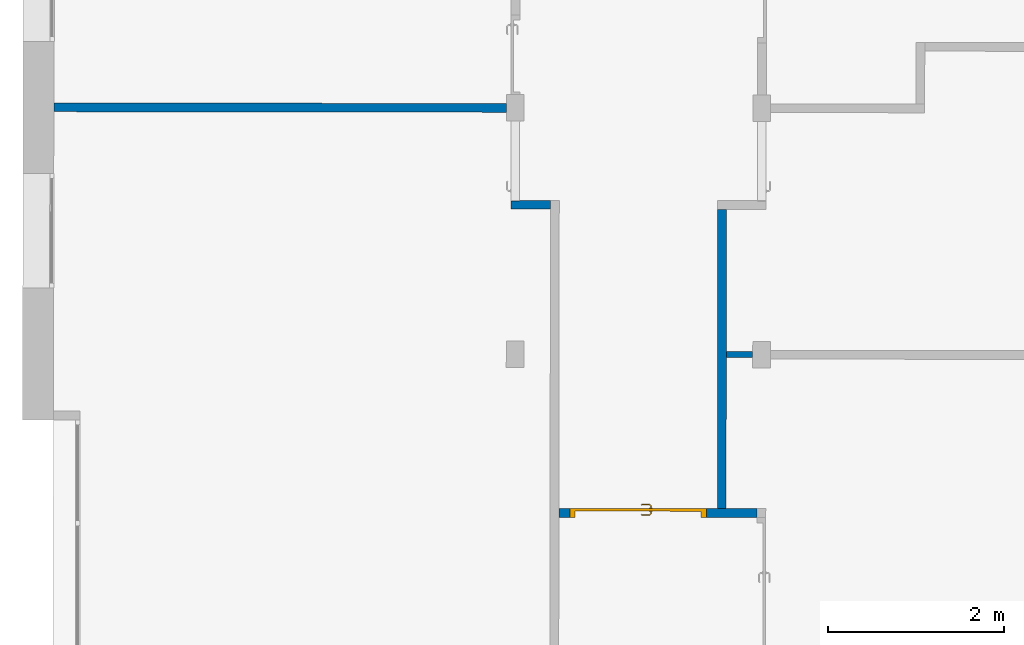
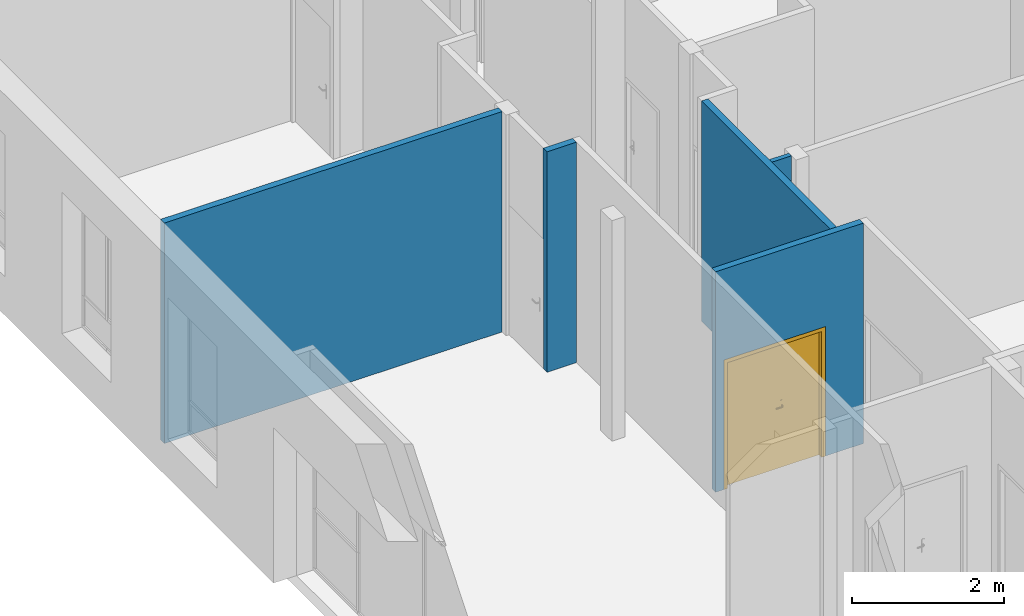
# One storey, part 61 of 101: 5 walls, 1 door, 2 openings.
"""IFC2X3 building model written with IfcOpenShell, lengths in metres."""

import ifcopenshell
import ifcopenshell.guid

model = None  # the IFC model being written
_history = None  # IfcOwnerHistory: only IFC2X3 demands one
_inside = {}  # id of a spatial element -> (the spatial element, [elements in it])
_under = {}  # id of a project, library or spatial element -> (it, [spatial elements below it])
_declared = {}  # id of a project -> (the project, [libraries it declares])
_typed = {}  # id of a type object -> (the type object, [elements of that type])
_made_of = {}  # id of a material, layer set ... -> (it, [elements and type objects made of it])


def new_model(schema):
    """Start an empty IFC model of exactly this schema.

    Asked for "IFC4X3", IfcOpenShell would pick the latest addendum, in which some entities
    have other attributes; the version numbers below select the first issue.
    IFC2X3 requires an IfcOwnerHistory on every rooted entity: one is made here for all.
    """
    global model, _history
    if schema == "IFC4X3":
        model = ifcopenshell.file(schema_version=(4, 3, 0, 0))
    else:
        model = ifcopenshell.file(schema=schema)
    _inside.clear()
    _under.clear()
    _declared.clear()
    _typed.clear()
    _made_of.clear()
    _history = None
    if model.schema == "IFC2X3":
        org = make("IfcOrganization", Name="unknown")
        user = make(
            "IfcPersonAndOrganization",
            ThePerson=make("IfcPerson", FamilyName="unknown"),
            TheOrganization=org,
        )
        app = make(
            "IfcApplication",
            ApplicationDeveloper=org,
            Version="unknown",
            ApplicationFullName="unknown",
            ApplicationIdentifier="unknown",
        )
        _history = make(
            "IfcOwnerHistory",
            OwningUser=user,
            OwningApplication=app,
            ChangeAction="ADDED",
            CreationDate=0,
        )
    return model


def make(cls, **values):
    """One entity of the class cls with the attributes given. An attribute that is None is left unset."""
    return model.create_entity(
        cls, **{name: value for name, value in values.items() if value is not None}
    )


def entity(cls, *values):
    """Any entity or typed value of the class cls, its attributes in the order of the schema. None: left unset."""
    e = model.create_entity(cls)
    for i, value in enumerate(values):
        if value is not None:
            e[i] = value
    return e


def rooted(cls, **values):
    """An entity with a GlobalId (a new one), such as an element, a storey or a relation."""
    return make(cls, GlobalId=ifcopenshell.guid.new(), OwnerHistory=_history, **values)


def si_unit(unit_type, name, prefix=None):
    """IfcSIUnit, for example si_unit("LENGTHUNIT", "METRE", prefix="MILLI")."""
    return make("IfcSIUnit", UnitType=unit_type, Prefix=prefix, Name=name)


def converted_unit(unit_type, name, factor, base, dimensions=None, offset=None):
    """IfcConversionBasedUnit, such as the inch: factor (a typed value) times the base unit."""
    return make(
        "IfcConversionBasedUnit"
        if offset is None
        else "IfcConversionBasedUnitWithOffset",
        ConversionOffset=offset,
        Dimensions=None
        if dimensions is None
        else entity("IfcDimensionalExponents", *dimensions),
        UnitType=unit_type,
        Name=name,
        ConversionFactor=make(
            "IfcMeasureWithUnit", ValueComponent=factor, UnitComponent=base
        ),
    )


def derived_unit(unit_type, elements):
    """IfcDerivedUnit: a product of units, each with its exponent."""
    return make(
        "IfcDerivedUnit",
        Elements=[
            make("IfcDerivedUnitElement", Unit=unit, Exponent=power)
            for unit, power in elements
        ],
        UnitType=unit_type,
    )


def assignment(units):
    """IfcUnitAssignment: the units of a project."""
    return None if units is None else make("IfcUnitAssignment", Units=units)


def point(xyz):
    """IfcCartesianPoint."""
    return None if xyz is None else make("IfcCartesianPoint", Coordinates=xyz)


def direction(xyz):
    """IfcDirection."""
    return None if xyz is None else make("IfcDirection", DirectionRatios=xyz)


def frame(location, z_axis=None, x_axis=None):
    """IfcAxis2Placement3D, a coordinate frame: its origin and axes. An axis left out is left unset."""
    return make(
        "IfcAxis2Placement3D",
        Location=point(location),
        Axis=direction(z_axis),
        RefDirection=direction(x_axis),
    )


def frame_2d(location, x_axis=None):
    """IfcAxis2Placement2D, a coordinate frame in the plane: its origin and x axis."""
    return make(
        "IfcAxis2Placement2D", Location=point(location), RefDirection=direction(x_axis)
    )


def origin():
    """The frame at (0, 0, 0) with its axes left unset."""
    return frame((0.0, 0.0, 0.0))


def place(relative_to, where):
    """IfcLocalPlacement: puts the frame where relative to a parent placement (None: the world)."""
    return make(
        "IfcLocalPlacement", PlacementRelTo=relative_to, RelativePlacement=where
    )


def context(
    kind, dimensions, precision=None, world=None, true_north=None, identifier=None
):
    """IfcGeometricRepresentationContext, for example the 3D "Model" context."""
    return make(
        "IfcGeometricRepresentationContext",
        ContextIdentifier=identifier,
        ContextType=kind,
        CoordinateSpaceDimension=dimensions,
        Precision=precision,
        WorldCoordinateSystem=world,
        TrueNorth=true_north,
    )


def subcontext(parent, identifier, kind, view, scale=None):
    """IfcGeometricRepresentationSubContext, for example "Body" below "Model"."""
    return make(
        "IfcGeometricRepresentationSubContext",
        ContextIdentifier=identifier,
        ContextType=kind,
        ParentContext=parent,
        TargetScale=scale,
        TargetView=view,
    )


def project(units=None, contexts=None):
    """IfcProject with its units and contexts."""
    return rooted(
        "IfcProject",
        Name="project",
        RepresentationContexts=contexts,
        UnitsInContext=assignment(units),
    )


def spatial(cls, under=None, at=None, **own):
    """A site, building, storey or space (cls), placed at a placement, below another one or the project."""
    s = rooted(cls, ObjectPlacement=at, **own)
    if under is not None:
        _under.setdefault(under.id(), (under, []))[1].append(s)
    return s


def profile(cls, at=None, kind="AREA", **sizes):
    """A parametric profile (cls). Its sizes go by their IFC names, for example OverallWidth=200.0."""
    return make(cls, ProfileType=kind, Position=at, **sizes)


def rectangle(**sizes):
    """IfcRectangleProfileDef."""
    return profile("IfcRectangleProfileDef", **sizes)


def extrude(swept, where, along, depth):
    """IfcExtrudedAreaSolid: the profile swept, set in the frame where, extruded along a direction by depth."""
    return make(
        "IfcExtrudedAreaSolid",
        SweptArea=swept,
        Position=where,
        ExtrudedDirection=direction(along),
        Depth=depth,
    )


def faces_of(points, faces, orient=None, outer=None):
    """IfcFace entities. A face is a list of loops; a loop is a list of indices into points, from 0.

    orient and outer hold one flag for each loop. By default every Orientation is true, the
    first loop of a face is its IfcFaceOuterBound and the others are IfcFaceBound.
    """
    made = []
    for i, loops in enumerate(faces):
        bounds = []
        for j, loop in enumerate(loops):
            is_outer = j == 0 if outer is None else outer[i][j]
            bounds.append(
                make(
                    "IfcFaceOuterBound" if is_outer else "IfcFaceBound",
                    Bound=make("IfcPolyLoop", Polygon=[points[k] for k in loop]),
                    Orientation=True if orient is None else orient[i][j],
                )
            )
        made.append(make("IfcFace", Bounds=bounds))
    return made


def faceted_brep(points, faces, orient=None, outer=None, voids=None):
    """IfcFacetedBrep: a solid bounded by flat faces; with voids (closed shells), ...WithVoids."""
    shared = [point(p) for p in points]
    hull = make("IfcClosedShell", CfsFaces=faces_of(shared, faces, orient, outer))
    if voids is None:
        return make("IfcFacetedBrep", Outer=hull)
    return make(
        "IfcFacetedBrepWithVoids",
        Outer=hull,
        Voids=[
            make(cls, CfsFaces=faces_of(shared, fs, o, b)) for cls, fs, o, b in voids
        ],
    )


def shape(context_of_items, identifier, shape_type, items):
    """IfcShapeRepresentation: the items that make up one representation, for example the "Body"."""
    return make(
        "IfcShapeRepresentation",
        ContextOfItems=context_of_items,
        RepresentationIdentifier=identifier,
        RepresentationType=shape_type,
        Items=items,
    )


def source(mapping_origin, context_of_items, identifier, shape_type, items):
    """IfcRepresentationMap: a shape defined once, which mapped items show again and again."""
    return make(
        "IfcRepresentationMap",
        MappingOrigin=mapping_origin,
        MappedRepresentation=shape(context_of_items, identifier, shape_type, items),
    )


def transform(
    local_origin,
    x_axis=None,
    y_axis=None,
    z_axis=None,
    scale=None,
    scale2=None,
    scale3=None,
    uniform=True,
):
    """IfcCartesianTransformationOperator3D, or its non-uniform kind. x_axis, y_axis, z_axis: its Axis1, 2, 3."""
    if uniform:
        return make(
            "IfcCartesianTransformationOperator3D",
            Axis1=direction(x_axis),
            Axis2=direction(y_axis),
            LocalOrigin=point(local_origin),
            Scale=scale,
            Axis3=direction(z_axis),
        )
    return make(
        "IfcCartesianTransformationOperator3DnonUniform",
        Axis1=direction(x_axis),
        Axis2=direction(y_axis),
        LocalOrigin=point(local_origin),
        Scale=scale,
        Axis3=direction(z_axis),
        Scale2=scale2,
        Scale3=scale3,
    )


def mapped(mapping_source, mapping_target):
    """IfcMappedItem: shows the shape of a source again, moved by a transform."""
    return make(
        "IfcMappedItem", MappingSource=mapping_source, MappingTarget=mapping_target
    )


def material(Name=None, Category=None):
    """IfcMaterial."""
    return make("IfcMaterial", Name=Name, Category=Category)


def material_list(materials):
    """IfcMaterialList."""
    return make("IfcMaterialList", Materials=materials)


def layer(
    of_material, thickness, ventilated=None, Name=None, Category=None, Priority=None
):
    """IfcMaterialLayer: one layer of a wall or slab, of a material (None: an air gap)."""
    return make(
        "IfcMaterialLayer",
        Material=of_material,
        LayerThickness=thickness,
        IsVentilated=ventilated,
        Name=Name,
        Category=Category,
        Priority=Priority,
    )


def layer_set(layers, Name=None):
    """IfcMaterialLayerSet."""
    return make("IfcMaterialLayerSet", MaterialLayers=layers, LayerSetName=Name)


def layer_usage(for_layer_set, set_direction, sense, offset, extent=None):
    """IfcMaterialLayerSetUsage: how a layer set lies in its element."""
    return make(
        "IfcMaterialLayerSetUsage",
        ForLayerSet=for_layer_set,
        LayerSetDirection=set_direction,
        DirectionSense=sense,
        OffsetFromReferenceLine=offset,
        ReferenceExtent=extent,
    )


def made_of(thing, what):
    """Note that an element or type object is made of a material, layer set ...; save() writes the relation."""
    if what is not None:
        _made_of.setdefault(what.id(), (what, []))[1].append(thing)
    return thing


def type_object(cls, material=None, **own):
    """A type object (cls), such as IfcWallType, which elements share."""
    return made_of(rooted(cls, **own), material)


def type_shapes(of_type, sources):
    """Give a type object the sources (RepresentationMaps) that its elements show as mapped items."""
    of_type.RepresentationMaps = sources


def element(
    cls,
    number,
    at=None,
    inside=None,
    cuts=None,
    type_object=None,
    material=None,
    context=None,
    identifier="Body",
    shape_type=None,
    held_by="IfcProductDefinitionShape",
    body=None,
    shapes=None,
    **own,
):
    """One element of the class cls, such as IfcWall. Its Tag is "e" and its number.

    at: its placement. inside: the storey or other place that contains it. cuts: it is an
    opening in that element (IfcRelVoidsElement). A single representation is given by context,
    identifier, shape_type and body (its items); several are given by shapes. held_by: the class
    of the entity that holds the representations. save() writes the other relations.
    """
    e = rooted(cls, Tag="e%d" % number, ObjectPlacement=at, **own)
    if body is not None:
        shapes = [shape(context, identifier, shape_type, body)]
    if shapes is not None:
        e.Representation = make(held_by, Representations=shapes)
    if inside is not None:
        _inside.setdefault(inside.id(), (inside, []))[1].append(e)
    if cuts is not None:
        rooted(
            "IfcRelVoidsElement", RelatingBuildingElement=cuts, RelatedOpeningElement=e
        )
    if type_object is not None:
        _typed.setdefault(type_object.id(), (type_object, []))[1].append(e)
    return made_of(e, material)


def fill(opening, filler):
    """IfcRelFillsElement: the door or window that sits in an opening."""
    return rooted(
        "IfcRelFillsElement",
        RelatingOpeningElement=opening,
        RelatedBuildingElement=filler,
    )


def aggregate(whole, parts):
    """IfcRelAggregates: a whole, such as a stair, and the parts it consists of."""
    return rooted("IfcRelAggregates", RelatingObject=whole, RelatedObjects=parts)


def save(model, path):
    """Write the relations noted so far, then the file.

    IfcRelAggregates (storeys below a building ...), IfcRelContainedInSpatialStructure (elements
    in a storey), IfcRelDefinesByType, IfcRelAssociatesMaterial and IfcRelDeclares: one each for
    every whole, place, type object, material and project.
    """
    for whole, parts in _under.values():
        aggregate(whole, parts)
    for where, things in _inside.values():
        rooted(
            "IfcRelContainedInSpatialStructure",
            RelatedElements=things,
            RelatingStructure=where,
        )
    for kind, things in _typed.values():
        rooted("IfcRelDefinesByType", RelatedObjects=things, RelatingType=kind)
    for what, things in _made_of.values():
        rooted("IfcRelAssociatesMaterial", RelatedObjects=things, RelatingMaterial=what)
    for by, libraries in _declared.values():
        rooted("IfcRelDeclares", RelatingContext=by, RelatedDefinitions=libraries)
    model.write(path)


model = new_model("IFC2X3")

# Units and contexts
model_context = context("Model", 3, precision=1e-05, world=origin(), true_north=direction((6.123233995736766e-17, 1.0)))
body_context = subcontext(model_context, "Body", "Model", "MODEL_VIEW")
ifc_project = project(units=[si_unit("LENGTHUNIT", "METRE"), si_unit("AREAUNIT", "SQUARE_METRE"), converted_unit("PLANEANGLEUNIT", "DEGREE", entity("IfcPlaneAngleMeasure", 0.017453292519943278), si_unit("PLANEANGLEUNIT", "RADIAN"), dimensions=[0, 0, 0, 0, 0, 0, 0]), derived_unit("THERMALTRANSMITTANCEUNIT", [(si_unit("MASSUNIT", "GRAM", prefix="KILO"), 1), (si_unit("THERMODYNAMICTEMPERATUREUNIT", "KELVIN"), -1), (si_unit("TIMEUNIT", "SECOND"), -3)])], contexts=[model_context])

# Site, building, storey
site_placement = place(None, frame((1253.6752467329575, 2072.143113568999, 91.49999999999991), z_axis=(0.0, 0.0, 1.0), x_axis=(0.7237211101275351, 0.6900925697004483, 0.0)))
site = spatial("IfcSite", under=ifc_project, at=site_placement, Name="Surface", CompositionType="ELEMENT")
building_placement = place(site_placement, origin())
building = spatial("IfcBuilding", under=site, at=building_placement, CompositionType="ELEMENT")
storey_placement = place(building_placement, origin())
storey = spatial("IfcBuildingStorey", under=building, at=storey_placement, Name="0- Rdc", CompositionType="ELEMENT", Elevation=-5.764692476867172e-13)

# Wall, opening, door
ifc_material_1 = material(Name="OMD_Béton blanc")
ifc_layer_1 = layer(ifc_material_1, 0.1)
ifc_layer_set_1 = layer_set([ifc_layer_1], Name="Mur de base:MUR 10")
ifc_layer_usage_1 = layer_usage(ifc_layer_set_1, "AXIS2", "NEGATIVE", 0.05)
wall_type_1 = type_object("IfcWallType", Name="Mur de base:MUR 10", PredefinedType="STANDARD", material=ifc_layer_set_1)
wall_1_placement = place(storey_placement, frame((162.69481149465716, 12.014438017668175, 0.0), z_axis=(0.0, 0.0, 1.0), x_axis=(-0.7228702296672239, 0.6909838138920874, 0.0)))
wall_1 = element("IfcWallStandardCase", 1, at=wall_1_placement, inside=storey, type_object=wall_type_1, material=ifc_layer_usage_1, Name="Mur de base:MUR 10", ObjectType="Mur de base:MUR 10", context=body_context, shape_type="SweptSolid", body=[
    extrude(rectangle(XDim=2.2499999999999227, YDim=0.1000000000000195, at=frame_2d((1.1249999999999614, 5.342948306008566e-16), x_axis=(-1.0, 0.0))), origin(), (0.0, 0.0, 1.0), 3.5499999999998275),
])
opening_1_placement = place(wall_1_placement, frame((2.12499999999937, 0.04999999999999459, 0.0)))
opening_1 = element("IfcOpeningElement", 2, at=opening_1_placement, cuts=wall_1, Name="OMD_Porte 2V tunnel:140x204:1", ObjectType="Opening", context=body_context, shape_type="SweptSolid", body=[
    extrude(rectangle(XDim=2.085, YDim=1.5499999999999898, at=frame_2d((1.0425, 0.7749999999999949), x_axis=(1.0, 0.0))), frame((0.0, 0.0, 0.0), z_axis=(0.0, -1.0, 0.0), x_axis=(0.0, 0.0, 1.0)), (0.0, 0.0, 1.0), 0.1),
])
ifc_material_2 = material(Name="<Unnamed>")
ifc_material_3 = material(Name="Porte - Poignée")
ifc_material_4 = material(Name="OMD_Bois")
ifc_material_list = material_list([ifc_material_2, ifc_material_3, ifc_material_4])
door_style = type_object("IfcDoorStyle", Name="OMD_Porte 2V tunnel:140x204", ConstructionType="NOTDEFINED", OperationType="NOTDEFINED", ParameterTakesPrecedence=False, Sizeable=False, material=ifc_material_list)
shared_shape = source(origin(), body_context, "Body", "Brep", [
    faceted_brep([(0.1450000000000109, 0.030000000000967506, 0.0), (0.6750000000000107, 0.030000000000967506, 0.0), (0.6750000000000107, 0.0, 0.0), (0.1450000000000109, 0.0, 0.0), (0.1450000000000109, 0.030000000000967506, 2.04), (0.1450000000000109, 0.0, 2.04), (0.6750000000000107, 0.0, 2.04), (0.6750000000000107, 0.030000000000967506, 2.04)], [[[0, 1, 2, 3]], [[4, 0, 3, 5]], [[5, 3, 2, 6]], [[6, 2, 1, 7]], [[7, 1, 0, 4]], [[4, 5, 6, 7]]]),
    faceted_brep([(0.7279747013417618, 0.035000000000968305, 1.0077804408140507), (0.7239999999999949, 0.035000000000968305, 1.0069999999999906), (0.7239999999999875, 0.035000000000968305, 0.9929999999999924), (0.7279747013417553, 0.035000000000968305, 0.9922195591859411), (0.7320252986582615, 0.035000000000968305, 0.9922195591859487), (0.7360000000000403, 0.035000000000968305, 0.9930000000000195), (0.7360000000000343, 0.035000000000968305, 1.0069999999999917), (0.7320252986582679, 0.035000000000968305, 1.007780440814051), (0.7360000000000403, 0.057485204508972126, 0.9930000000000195), (0.7360000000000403, 0.057485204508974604, 1.0069999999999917), (0.7320252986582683, 0.05913157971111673, 1.007780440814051), (0.7458389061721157, 0.07294518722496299, 1.007780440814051), (0.7441610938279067, 0.07699578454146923, 1.0077804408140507), (0.7279747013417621, 0.06080939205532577, 1.0077804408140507), (0.8356847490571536, 0.06646731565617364, 1.0077804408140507), (0.8385489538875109, 0.06933152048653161, 1.0077804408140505), (0.8308846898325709, 0.07699578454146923, 1.0077804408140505), (0.8292068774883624, 0.07294518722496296, 1.0077804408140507), (0.7239999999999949, 0.06245576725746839, 1.0069999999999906), (0.7239999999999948, 0.06245576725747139, 0.9929999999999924), (0.7279747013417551, 0.060809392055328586, 0.9922195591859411), (0.7441610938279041, 0.07699578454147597, 0.9922195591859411), (0.7458389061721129, 0.07294518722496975, 0.9922195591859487), (0.7320252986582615, 0.05913157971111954, 0.9922195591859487), (0.8385489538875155, 0.06933152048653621, 0.9922195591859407), (0.8356847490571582, 0.06646731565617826, 0.9922195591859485), (0.8292068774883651, 0.07294518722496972, 0.9922195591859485), (0.8308846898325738, 0.07699578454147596, 0.9922195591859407), (0.74748528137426, 0.06897048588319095, 0.9930000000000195), (0.7474852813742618, 0.06897048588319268, 1.0069999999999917), (0.7425147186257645, 0.08097048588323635, 1.0069999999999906), (0.7425147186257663, 0.08097048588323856, 0.9929999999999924), (0.787522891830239, 0.06897048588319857, 0.9930000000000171), (0.8275605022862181, 0.06897048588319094, 0.9930000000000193), (0.8275605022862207, 0.06897048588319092, 1.0069999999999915), (0.787522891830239, 0.06897048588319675, 1.0069999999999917), (0.7875228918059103, 0.07512492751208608, 1.0078781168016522), (0.8325310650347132, 0.0809704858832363, 1.0069999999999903), (0.7926005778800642, 0.08097048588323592, 1.0069999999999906), (0.8325310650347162, 0.08097048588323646, 0.9929999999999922), (0.7824452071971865, 0.08097048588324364, 0.9929999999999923), (0.7875228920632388, 0.07512492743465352, 0.9921218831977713), (0.8328742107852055, 0.06365677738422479, 0.9930000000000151), (0.8413594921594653, 0.0721420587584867, 0.99299999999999), (0.8413594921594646, 0.07214205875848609, 1.0069999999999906), (0.8328742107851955, 0.06365677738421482, 1.0069999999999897)], [[[0, 1, 2, 3, 4, 5, 6, 7]], [[6, 5, 8, 9]], [[9, 10, 7, 6]], [[10, 11, 12, 13, 0, 7]], [[14, 15, 16, 17]], [[13, 18, 1, 0]], [[2, 1, 18, 19]], [[19, 20, 3, 2]], [[20, 21, 22, 23, 4, 3]], [[24, 25, 26, 27]], [[23, 8, 5, 4]], [[9, 8, 28, 29]], [[29, 11, 10, 9]], [[12, 30, 18, 13]], [[19, 18, 30, 31]], [[31, 21, 20, 19]], [[22, 28, 8, 23]], [[29, 28, 32, 33, 34, 35]], [[11, 35, 36]], [[16, 37, 38]], [[30, 12, 38]], [[38, 12, 36]], [[36, 35, 17]], [[17, 16, 36]], [[35, 11, 29]], [[34, 17, 35]], [[11, 36, 12]], [[38, 36, 16]], [[31, 30, 38, 37, 39, 40]], [[40, 41, 21]], [[41, 40, 27]], [[21, 31, 40]], [[39, 27, 40]], [[41, 32, 22]], [[22, 21, 41]], [[26, 32, 41]], [[28, 22, 32]], [[32, 26, 33]], [[26, 41, 27]], [[42, 25, 24, 43, 44, 15, 14, 45]], [[34, 33, 42, 45]], [[45, 14, 17, 34]], [[15, 44, 37, 16]], [[39, 37, 44, 43]], [[43, 24, 27, 39]], [[25, 42, 33, 26]]]),
    faceted_brep([(0.7279747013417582, -0.004999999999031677, 1.0077804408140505), (0.7320252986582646, -0.004999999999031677, 1.007780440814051), (0.7360000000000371, -0.004999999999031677, 1.006999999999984), (0.7360000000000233, -0.004999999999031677, 0.9930000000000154), (0.7320252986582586, -0.004999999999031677, 0.9922195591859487), (0.7279747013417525, -0.004999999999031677, 0.992219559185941), (0.7239999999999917, -0.004999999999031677, 0.992999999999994), (0.7239999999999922, -0.004999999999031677, 1.0069999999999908), (0.723999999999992, -0.03265095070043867, 1.0069999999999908), (0.727974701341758, -0.031004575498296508, 1.0077804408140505), (0.7440235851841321, -0.047053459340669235, 1.0077804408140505), (0.745701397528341, -0.043002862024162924, 1.007780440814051), (0.7320252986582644, -0.029326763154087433, 1.007780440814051), (0.8385218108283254, -0.03938919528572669, 1.0077804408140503), (0.8356576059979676, -0.036524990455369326, 1.0077804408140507), (0.8291797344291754, -0.043002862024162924, 1.0077804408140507), (0.8308575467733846, -0.047053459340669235, 1.0077804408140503), (0.7360000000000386, -0.027680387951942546, 1.0069999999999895), (0.7360000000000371, -0.027680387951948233, 0.9930000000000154), (0.7320252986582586, -0.029326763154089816, 0.9922195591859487), (0.7457013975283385, -0.04300286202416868, 0.9922195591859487), (0.7440235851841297, -0.04705345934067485, 0.992219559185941), (0.7279747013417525, -0.031004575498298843, 0.992219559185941), (0.8356576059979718, -0.03652499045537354, 0.9922195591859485), (0.8385218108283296, -0.03938919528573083, 0.9922195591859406), (0.8308575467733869, -0.04705345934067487, 0.9922195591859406), (0.8291797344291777, -0.04300286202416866, 0.9922195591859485), (0.7239999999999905, -0.03265095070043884, 0.9929999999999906), (0.7423772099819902, -0.051028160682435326, 1.0069999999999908), (0.7473477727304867, -0.03902816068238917, 1.0069999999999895), (0.7473477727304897, -0.03902816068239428, 0.9930000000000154), (0.7423772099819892, -0.05102816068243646, 0.9929999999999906), (0.7823076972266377, -0.05102816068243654, 1.0069999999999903), (0.7874405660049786, -0.045182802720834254, 1.0078781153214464), (0.8325039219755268, -0.051028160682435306, 1.0069999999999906), (0.7874405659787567, -0.039028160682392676, 1.0069999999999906), (0.8275333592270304, -0.039028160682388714, 1.0069999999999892), (0.827533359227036, -0.03902816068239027, 0.9930000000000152), (0.7874405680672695, -0.03902816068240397, 0.9930000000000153), (0.7874405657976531, -0.04518280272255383, 0.9921218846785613), (0.832503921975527, -0.05102816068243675, 0.9929999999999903), (0.7925734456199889, -0.051028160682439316, 0.9929999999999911), (0.8328470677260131, -0.03371445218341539, 1.0069999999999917), (0.8413323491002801, -0.042199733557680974, 1.0069999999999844), (0.841332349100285, -0.04219973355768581, 0.9929999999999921), (0.8328470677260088, -0.03371445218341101, 0.9930000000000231)], [[[0, 1, 2, 3, 4, 5, 6, 7]], [[8, 9, 0, 7]], [[9, 10, 11, 12, 1, 0]], [[13, 14, 15, 16]], [[12, 17, 2, 1]], [[3, 2, 17, 18]], [[18, 19, 4, 3]], [[19, 20, 21, 22, 5, 4]], [[23, 24, 25, 26]], [[22, 27, 6, 5]], [[7, 6, 27, 8]], [[28, 10, 9, 8]], [[11, 29, 17, 12]], [[18, 17, 29, 30]], [[30, 20, 19, 18]], [[21, 31, 27, 22]], [[8, 27, 31, 28]], [[32, 33, 10]], [[33, 32, 16]], [[10, 28, 32]], [[34, 16, 32]], [[33, 35, 11]], [[11, 10, 33]], [[15, 35, 33]], [[29, 11, 35]], [[35, 15, 36]], [[15, 33, 16]], [[30, 29, 35, 36, 37, 38]], [[20, 38, 39]], [[25, 40, 41]], [[31, 21, 41]], [[41, 21, 39]], [[39, 38, 26]], [[26, 25, 39]], [[38, 20, 30]], [[37, 26, 38]], [[20, 39, 21]], [[41, 39, 25]], [[28, 31, 41, 40, 34, 32]], [[42, 14, 13, 43, 44, 24, 23, 45]], [[43, 13, 16, 34]], [[14, 42, 36, 15]], [[37, 36, 42, 45]], [[45, 23, 26, 37]], [[24, 44, 40, 25]], [[34, 40, 44, 43]]]),
    faceted_brep([(0.7403527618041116, 0.030000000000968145, 0.8660039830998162), (0.7500000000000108, 0.030000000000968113, 0.8700000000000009), (0.7500000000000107, 0.030000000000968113, 1.0800000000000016), (0.7403527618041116, 0.030000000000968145, 1.0839960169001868), (0.730000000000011, 0.03000000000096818, 1.0853589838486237), (0.7196472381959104, 0.03000000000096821, 1.0839960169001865), (0.7100000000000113, 0.030000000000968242, 1.0800000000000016), (0.7100000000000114, 0.030000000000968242, 0.8700000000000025), (0.7196472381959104, 0.03000000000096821, 0.866003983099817), (0.7300000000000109, 0.03000000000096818, 0.8646410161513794), (0.7403527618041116, 0.035000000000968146, 1.0839960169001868), (0.7500000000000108, 0.03500000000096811, 1.0800000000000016), (0.7500000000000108, 0.03500000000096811, 0.8700000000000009), (0.7403527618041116, 0.035000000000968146, 0.8660039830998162), (0.7300000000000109, 0.03500000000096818, 0.8646410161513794), (0.7196472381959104, 0.035000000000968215, 0.866003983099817), (0.7100000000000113, 0.03500000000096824, 0.8700000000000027), (0.7100000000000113, 0.03500000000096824, 1.0800000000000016), (0.7196472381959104, 0.035000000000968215, 1.0839960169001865), (0.730000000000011, 0.03500000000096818, 1.0853589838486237)], [[[0, 1, 2, 3, 4, 5, 6, 7, 8, 9]], [[10, 11, 12, 13, 14, 15, 16, 17, 18, 19]], [[11, 10, 3, 2]], [[3, 10, 19, 4]], [[19, 18, 5, 4]], [[18, 17, 6, 5]], [[7, 6, 17, 16]], [[16, 15, 8, 7]], [[8, 15, 14, 9]], [[14, 13, 0, 9]], [[13, 12, 1, 0]], [[2, 1, 12, 11]]]),
    faceted_brep([(0.7403527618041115, -0.004999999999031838, 0.8660039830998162), (0.7500000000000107, -0.004999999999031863, 0.8700000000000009), (0.7500000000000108, -0.004999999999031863, 1.0800000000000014), (0.7403527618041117, -0.004999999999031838, 1.0839960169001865), (0.7300000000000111, -0.004999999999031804, 1.0853589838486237), (0.7196472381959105, -0.00499999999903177, 1.0839960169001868), (0.7100000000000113, -0.0049999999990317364, 1.0800000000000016), (0.7100000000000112, -0.0049999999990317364, 0.8700000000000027), (0.71964723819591, -0.00499999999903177, 0.8660039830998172), (0.7300000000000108, -0.004999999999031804, 0.8646410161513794), (0.7403527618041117, 0.0, 1.0839960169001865), (0.7500000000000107, 0.0, 1.0800000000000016), (0.7500000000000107, 0.0, 0.8700000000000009), (0.7403527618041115, 0.0, 0.8660039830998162), (0.7300000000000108, 0.0, 0.8646410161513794), (0.71964723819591, 0.0, 0.8660039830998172), (0.7100000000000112, 0.0, 0.8700000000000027), (0.7100000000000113, 0.0, 1.0800000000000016), (0.7196472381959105, 0.0, 1.0839960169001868), (0.7300000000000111, 0.0, 1.0853589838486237)], [[[0, 1, 2, 3, 4, 5, 6, 7, 8, 9]], [[10, 11, 12, 13, 14, 15, 16, 17, 18, 19]], [[16, 15, 8, 7]], [[8, 15, 14, 9]], [[14, 13, 0, 9]], [[13, 12, 1, 0]], [[2, 1, 12, 11]], [[11, 10, 3, 2]], [[3, 10, 19, 4]], [[19, 18, 5, 4]], [[18, 17, 6, 5]], [[7, 6, 17, 16]]]),
    faceted_brep([(0.6750000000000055, 0.030000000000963, 0.0), (1.6050000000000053, 0.0300000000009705, 0.0), (1.6050000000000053, 0.0, 0.0), (0.675000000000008, 0.0, 0.0), (0.6750000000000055, 0.030000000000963, 2.04), (0.675000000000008, 0.0, 2.04), (1.6050000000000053, 0.0, 2.04), (1.6050000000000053, 0.0300000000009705, 2.04)], [[[0, 1, 2, 3]], [[4, 0, 3, 5]], [[5, 3, 2, 6]], [[6, 2, 1, 7]], [[7, 1, 0, 4]], [[4, 5, 6, 7]]]),
    faceted_brep([(0.10000000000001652, 0.0, 0.0), (0.10000000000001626, 0.10000000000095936, 0.0), (0.1600000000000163, 0.10000000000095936, 0.0), (0.16000000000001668, 0.030000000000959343, 0.0), (0.14500000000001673, 0.0300000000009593, 0.0), (0.14500000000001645, 0.0, 0.0), (0.14500000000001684, 0.0, 2.0399999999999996), (1.605000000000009, 0.0, 2.0399999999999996), (1.6050000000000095, 0.0, 0.0), (1.6500000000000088, 0.0, 0.0), (1.6500000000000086, 0.0, 2.0849999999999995), (0.10000000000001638, 0.0, 2.085), (0.1450000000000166, 0.0300000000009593, 2.0399999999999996), (0.16000000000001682, 0.030000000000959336, 2.0249999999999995), (1.5900000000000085, 0.03000000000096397, 2.0249999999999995), (1.5900000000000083, 0.03000000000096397, 0.0), (1.6050000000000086, 0.030000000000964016, 0.0), (1.6050000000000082, 0.030000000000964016, 2.039999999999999), (0.16000000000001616, 0.10000000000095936, 2.0249999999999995), (0.10000000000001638, 0.10000000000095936, 2.0849999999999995), (1.6500000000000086, 0.10000000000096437, 2.0849999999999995), (1.6500000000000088, 0.10000000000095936, 0.0), (1.5900000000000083, 0.10000000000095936, 0.0), (1.5900000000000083, 0.10000000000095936, 2.0249999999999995)], [[[0, 1, 2, 3, 4, 5]], [[5, 6, 7, 8, 9, 10, 11, 0]], [[4, 12, 6, 5]], [[3, 13, 14, 15, 16, 17, 12, 4]], [[2, 18, 13, 3]], [[1, 19, 20, 21, 22, 23, 18, 2]], [[0, 11, 19, 1]], [[10, 9, 21, 20]], [[9, 8, 16, 15, 22, 21]], [[17, 16, 8, 7]], [[23, 22, 15, 14]], [[12, 17, 7, 6]], [[18, 23, 14, 13]], [[11, 10, 20, 19]]]),
])
type_shapes(door_style, [shared_shape])
door_placement = place(opening_1_placement, frame((-1.650000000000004, -0.09999999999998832, 0.0)))
door = element("IfcDoor", 3, at=door_placement, inside=storey, type_object=door_style, material=ifc_material_list, Name="OMD_Porte 2V tunnel:140x204", ObjectType="OMD_Porte 2V tunnel:140x204", OverallHeight=2.085, OverallWidth=1.5499999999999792, context=body_context, shape_type="MappedRepresentation", body=[
    mapped(shared_shape, transform((0.0, 0.0, 0.0), scale=1.0)),
])
fill(opening_1, door)

# Wall, opening
ifc_layer_usage_2 = layer_usage(ifc_layer_set_1, "AXIS2", "NEGATIVE", 0.05)
wall_2_placement = place(storey_placement, frame((163.41450980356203, 16.168295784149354, 0.0), z_axis=(0.0, 0.0, 1.0), x_axis=(-0.7228702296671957, 0.690983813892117, 0.0)))
wall_2 = element("IfcWallStandardCase", 4, at=wall_2_placement, inside=storey, type_object=wall_type_1, material=ifc_layer_usage_2, Name="Mur de base:MUR 10", ObjectType="Mur de base:MUR 10", context=body_context, shape_type="SweptSolid", body=[
    extrude(rectangle(XDim=0.45000000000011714, YDim=0.10000000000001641, at=frame_2d((0.22500000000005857, 1.6306400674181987e-16), x_axis=(-1.0, 0.0))), origin(), (0.0, 0.0, 1.0), 3.5499999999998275),
])
opening_2_placement = place(wall_2_placement, frame((106.95545354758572, 124.60436091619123, 0.0)))
element("IfcOpeningElement", 5, at=opening_2_placement, cuts=wall_2, Name="Mur de base:MUR 10", ObjectType="Opening", context=body_context, shape_type="SweptSolid", body=[
    extrude(rectangle(XDim=2.0850000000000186, YDim=0.10000000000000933, at=frame_2d((-7.528699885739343e-16, 1.1102230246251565e-16), x_axis=(0.0, 1.0))), frame((-106.55545354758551, -125.58186091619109, 1.0425000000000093), z_axis=(0.0, 1.0, 0.0), x_axis=(-1.0, 0.0, 0.0)), (0.0, 0.0, 1.0), 0.9349999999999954),
])

# Walls
ifc_layer_usage_3 = layer_usage(ifc_layer_set_1, "AXIS2", "NEGATIVE", 0.05)
wall_3_placement = place(storey_placement, frame((164.78955756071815, 14.78473383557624, 0.0), z_axis=(0.0, 0.0, 1.0), x_axis=(-0.6909838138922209, -0.7228702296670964, 0.0)))
element("IfcWallStandardCase", 6, at=wall_3_placement, inside=storey, type_object=wall_type_1, material=ifc_layer_usage_3, Name="Mur de base:MUR 10", ObjectType="Mur de base:MUR 10", context=body_context, shape_type="SweptSolid", body=[
    extrude(rectangle(XDim=3.39999999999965, YDim=0.10000000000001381, at=frame_2d((1.699999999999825, 1.5577816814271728e-15), x_axis=(-1.0, 0.0))), origin(), (0.0, 0.0, 1.0), 3.5499999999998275),
])
ifc_layer_usage_4 = layer_usage(ifc_layer_set_1, "AXIS2", "NEGATIVE", 0.05)
wall_4_placement = place(storey_placement, frame((163.81315688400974, 17.308944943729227, 0.0), z_axis=(0.0, 0.0, 1.0), x_axis=(-0.7228702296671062, 0.6909838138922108, 0.0)))
element("IfcWallStandardCase", 7, at=wall_4_placement, inside=storey, type_object=wall_type_1, material=ifc_layer_usage_4, Name="Mur de base:MUR 10", ObjectType="Mur de base:MUR 10", context=body_context, shape_type="SweptSolid", body=[
    extrude(rectangle(XDim=5.1400000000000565, YDim=0.100000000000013, at=frame_2d((2.5700000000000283, -3.587408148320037e-15), x_axis=(-1.0, 0.0))), origin(), (0.0, 0.0, 1.0), 3.5499999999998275),
])
ifc_layer_2 = layer(ifc_material_1, 0.07)
ifc_layer_set_2 = layer_set([ifc_layer_2], Name="Mur de base:MUR 7")
ifc_layer_usage_5 = layer_usage(ifc_layer_set_2, "AXIS2", "NEGATIVE", 0.035)
wall_type_2 = type_object("IfcWallType", Name="Mur de base:MUR 7", PredefinedType="STANDARD", material=ifc_layer_set_2)
wall_5_placement = place(storey_placement, frame((163.90243884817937, 13.350153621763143, 0.0), z_axis=(0.0, 0.0, 1.0), x_axis=(-0.7228702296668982, 0.6909838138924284, 0.0)))
element("IfcWallStandardCase", 8, at=wall_5_placement, inside=storey, type_object=wall_type_2, material=ifc_layer_usage_5, Name="Mur de base:MUR 7", ObjectType="Mur de base:MUR 7", context=body_context, shape_type="SweptSolid", body=[
    extrude(rectangle(XDim=0.3000000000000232, YDim=0.06999999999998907, at=frame_2d((0.1500000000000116, 1.5057399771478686e-15), x_axis=(-1.0, 0.0))), origin(), (0.0, 0.0, 1.0), 3.5499999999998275),
])

save(model, "model.ifc")
